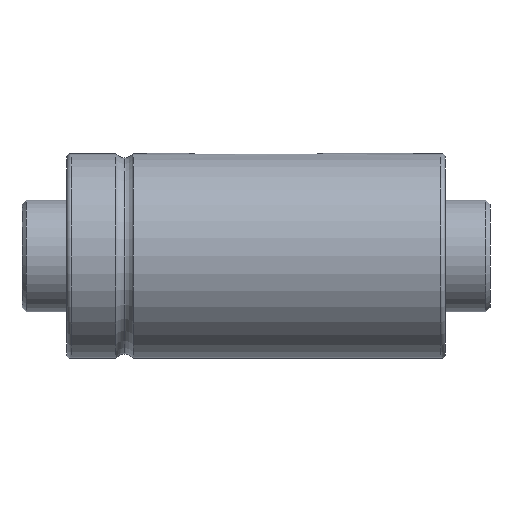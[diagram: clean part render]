
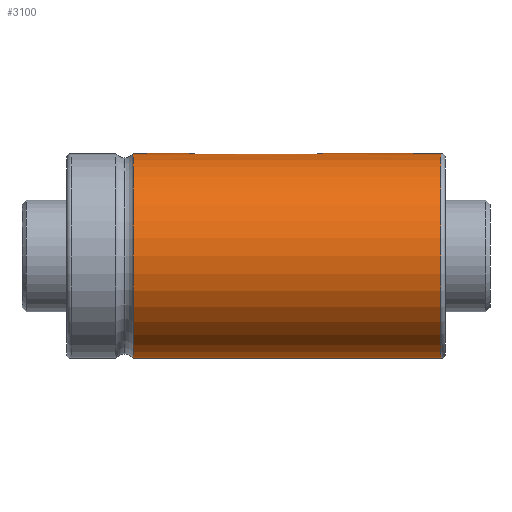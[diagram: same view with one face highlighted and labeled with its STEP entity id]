
A CAD part, front view. The second image highlights one B-rep face of the part: STEP entity #3100.
In plain terms, the highlighted cylindrical face has radius 23 mm (diameter 46 mm), a partial arc.
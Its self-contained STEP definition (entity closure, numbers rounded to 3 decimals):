
#84 = CARTESIAN_POINT ( 'NONE',  ( 56.989, -1.523, 22.95 ) ) ;
#103 = CARTESIAN_POINT ( 'NONE',  ( 55.659, -2.434, 22.871 ) ) ;
#145 = CARTESIAN_POINT ( 'NONE',  ( 85., 0., 0. ) ) ;
#156 = EDGE_CURVE ( 'NONE', #698, #528, #1585, .T. ) ;
#161 = CARTESIAN_POINT ( 'NONE',  ( 15., 0., 0. ) ) ;
#222 = CARTESIAN_POINT ( 'NONE',  ( 57.5, 0., 23. ) ) ;
#226 = DIRECTION ( 'NONE',  ( -1., 0., 0. ) ) ;
#297 = ORIENTED_EDGE ( 'NONE', *, *, #3298, .T. ) ;
#379 = FACE_OUTER_BOUND ( 'NONE', #3472, .T. ) ;
#438 = DIRECTION ( 'NONE',  ( 0., 0., 1. ) ) ;
#483 = DIRECTION ( 'NONE',  ( 0., 0., -1. ) ) ;
#517 = CARTESIAN_POINT ( 'NONE',  ( 85., -2.5, 22.864 ) ) ;
#520 = ORIENTED_EDGE ( 'NONE', *, *, #1618, .T. ) ;
#528 = VERTEX_POINT ( 'NONE', #3101 ) ;
#548 = DIRECTION ( 'NONE',  ( -1., 0., 0. ) ) ;
#638 = CARTESIAN_POINT ( 'NONE',  ( 27.566, -0.659, 22.993 ) ) ;
#666 = CARTESIAN_POINT ( 'NONE',  ( 29.353, -2.42, 22.872 ) ) ;
#679 = CARTESIAN_POINT ( 'NONE',  ( 57.372, -0.806, 22.986 ) ) ;
#698 = VERTEX_POINT ( 'NONE', #1393 ) ;
#730 = AXIS2_PLACEMENT_3D ( 'NONE', #161, #1840, #438 ) ;
#835 = ORIENTED_EDGE ( 'NONE', *, *, #1866, .T. ) ;
#844 = VECTOR ( 'NONE', #1417, 1000. ) ;
#858 = DIRECTION ( 'NONE',  ( -1., 0., 0. ) ) ;
#889 = CARTESIAN_POINT ( 'NONE',  ( 29.672, -2.484, 22.866 ) ) ;
#902 = CARTESIAN_POINT ( 'NONE',  ( 30., -2.5, 22.864 ) ) ;
#926 = CARTESIAN_POINT ( 'NONE',  ( 56.883, -1.652, 22.941 ) ) ;
#986 = VERTEX_POINT ( 'NONE', #2933 ) ;
#1040 = CARTESIAN_POINT ( 'NONE',  ( 84., 0., 0. ) ) ;
#1054 = DIRECTION ( 'NONE',  ( -1., 0., 0. ) ) ;
#1062 = CIRCLE ( 'NONE', #730, 23. ) ;
#1186 = CARTESIAN_POINT ( 'NONE',  ( 28.348, -1.883, 22.923 ) ) ;
#1190 = CARTESIAN_POINT ( 'NONE',  ( 57.484, -0.328, 22.998 ) ) ;
#1202 = CARTESIAN_POINT ( 'NONE',  ( 27.754, -1.109, 22.974 ) ) ;
#1204 = CARTESIAN_POINT ( 'NONE',  ( 56.109, -2.246, 22.89 ) ) ;
#1215 = CARTESIAN_POINT ( 'NONE',  ( 57.17, -1.252, 22.966 ) ) ;
#1322 = LINE ( 'NONE', #517, #2047 ) ;
#1337 = CARTESIAN_POINT ( 'NONE',  ( 85., 0., 23. ) ) ;
#1393 = CARTESIAN_POINT ( 'NONE',  ( 84., 0., -23. ) ) ;
#1417 = DIRECTION ( 'NONE',  ( -1., 0., 0. ) ) ;
#1443 = CARTESIAN_POINT ( 'NONE',  ( 28.118, -1.653, 22.941 ) ) ;
#1446 = EDGE_CURVE ( 'NONE', #1911, #986, #2104, .T. ) ;
#1499 = B_SPLINE_CURVE_WITH_KNOTS ( 'NONE', 3,
 ( #2609, #2884, #1190, #3435, #679, #1780, #1215, #84, #926, #2896, #2334, #3458, #1204, #103, #2925, #2624 ),
 .UNSPECIFIED., .F., .F.,
 ( 4, 2, 2, 2, 2, 2, 2, 4 ),
 ( 0.004, 0.004, 0.005, 0.005, 0.006, 0.006, 0.007, 0.008 ),
 .UNSPECIFIED. ) ;
#1533 = VERTEX_POINT ( 'NONE', #2958 ) ;
#1585 = LINE ( 'NONE', #2878, #844 ) ;
#1618 = EDGE_CURVE ( 'NONE', #1533, #3271, #2644, .T. ) ;
#1780 = CARTESIAN_POINT ( 'NONE',  ( 57.247, -1.108, 22.974 ) ) ;
#1802 = ORIENTED_EDGE ( 'NONE', *, *, #1972, .T. ) ;
#1840 = DIRECTION ( 'NONE',  ( 1., 0., 0. ) ) ;
#1866 = EDGE_CURVE ( 'NONE', #986, #2089, #2055, .T. ) ;
#1911 = VERTEX_POINT ( 'NONE', #3399 ) ;
#1925 = AXIS2_PLACEMENT_3D ( 'NONE', #1040, #226, #483 ) ;
#1972 = EDGE_CURVE ( 'NONE', #3271, #2766, #1499, .T. ) ;
#2001 = CARTESIAN_POINT ( 'NONE',  ( 27.831, -1.255, 22.966 ) ) ;
#2029 = CARTESIAN_POINT ( 'NONE',  ( 28.477, -1.989, 22.914 ) ) ;
#2046 = EDGE_CURVE ( 'NONE', #2089, #528, #1062, .T. ) ;
#2047 = VECTOR ( 'NONE', #548, 1000. ) ;
#2055 = LINE ( 'NONE', #2872, #2992 ) ;
#2089 = VERTEX_POINT ( 'NONE', #2407 ) ;
#2104 = B_SPLINE_CURVE_WITH_KNOTS ( 'NONE', 3,
 ( #902, #2893, #889, #666, #3127, #2869, #2882, #2029, #1186, #1443, #2290, #2001, #1202, #638, #2578, #3417 ),
 .UNSPECIFIED., .F., .F.,
 ( 4, 2, 2, 2, 2, 2, 2, 4 ),
 ( -0.004, -0.003, -0.003, -0.002, -0.002, -0.001, -0.001, 0. ),
 .UNSPECIFIED. ) ;
#2177 = ORIENTED_EDGE ( 'NONE', *, *, #1446, .T. ) ;
#2199 = EDGE_CURVE ( 'NONE', #2766, #1911, #1322, .T. ) ;
#2242 = ORIENTED_EDGE ( 'NONE', *, *, #2046, .T. ) ;
#2290 = CARTESIAN_POINT ( 'NONE',  ( 28.014, -1.528, 22.95 ) ) ;
#2331 = DIRECTION ( 'NONE',  ( 0., 0., 1. ) ) ;
#2334 = CARTESIAN_POINT ( 'NONE',  ( 56.528, -1.986, 22.914 ) ) ;
#2407 = CARTESIAN_POINT ( 'NONE',  ( 15., 0., 23. ) ) ;
#2578 = CARTESIAN_POINT ( 'NONE',  ( 27.5, -0.33, 23. ) ) ;
#2609 = CARTESIAN_POINT ( 'NONE',  ( 57.5, 0., 23. ) ) ;
#2624 = CARTESIAN_POINT ( 'NONE',  ( 55., -2.5, 22.864 ) ) ;
#2644 = LINE ( 'NONE', #1337, #2732 ) ;
#2732 = VECTOR ( 'NONE', #1054, 1000. ) ;
#2742 = CIRCLE ( 'NONE', #1925, 23. ) ;
#2751 = AXIS2_PLACEMENT_3D ( 'NONE', #145, #3469, #2331 ) ;
#2766 = VERTEX_POINT ( 'NONE', #2963 ) ;
#2869 = CARTESIAN_POINT ( 'NONE',  ( 28.892, -2.247, 22.89 ) ) ;
#2872 = CARTESIAN_POINT ( 'NONE',  ( 85., 0., 23. ) ) ;
#2878 = CARTESIAN_POINT ( 'NONE',  ( 85., 0., -23. ) ) ;
#2882 = CARTESIAN_POINT ( 'NONE',  ( 28.748, -2.17, 22.898 ) ) ;
#2884 = CARTESIAN_POINT ( 'NONE',  ( 57.5, -0.165, 23. ) ) ;
#2893 = CARTESIAN_POINT ( 'NONE',  ( 29.835, -2.5, 22.864 ) ) ;
#2896 = CARTESIAN_POINT ( 'NONE',  ( 56.653, -1.882, 22.923 ) ) ;
#2924 = ORIENTED_EDGE ( 'NONE', *, *, #156, .F. ) ;
#2925 = CARTESIAN_POINT ( 'NONE',  ( 55.33, -2.5, 22.864 ) ) ;
#2933 = CARTESIAN_POINT ( 'NONE',  ( 27.5, 0., 23. ) ) ;
#2958 = CARTESIAN_POINT ( 'NONE',  ( 84., 0., 23. ) ) ;
#2963 = CARTESIAN_POINT ( 'NONE',  ( 55., -2.5, 22.864 ) ) ;
#2992 = VECTOR ( 'NONE', #858, 1000. ) ;
#3100 = ADVANCED_FACE ( 'NONE', ( #379 ), #3560, .T. ) ;
#3101 = CARTESIAN_POINT ( 'NONE',  ( 15., 0., -23. ) ) ;
#3127 = CARTESIAN_POINT ( 'NONE',  ( 29.194, -2.372, 22.877 ) ) ;
#3267 = ORIENTED_EDGE ( 'NONE', *, *, #2199, .T. ) ;
#3271 = VERTEX_POINT ( 'NONE', #222 ) ;
#3298 = EDGE_CURVE ( 'NONE', #698, #1533, #2742, .T. ) ;
#3399 = CARTESIAN_POINT ( 'NONE',  ( 30., -2.5, 22.864 ) ) ;
#3417 = CARTESIAN_POINT ( 'NONE',  ( 27.5, 0., 23. ) ) ;
#3435 = CARTESIAN_POINT ( 'NONE',  ( 57.42, -0.647, 22.991 ) ) ;
#3458 = CARTESIAN_POINT ( 'NONE',  ( 56.255, -2.169, 22.898 ) ) ;
#3469 = DIRECTION ( 'NONE',  ( -1., 0., 0. ) ) ;
#3472 = EDGE_LOOP ( 'NONE', ( #2924, #297, #520, #1802, #3267, #2177, #835, #2242 ) ) ;
#3560 = CYLINDRICAL_SURFACE ( 'NONE', #2751, 23. ) ;
